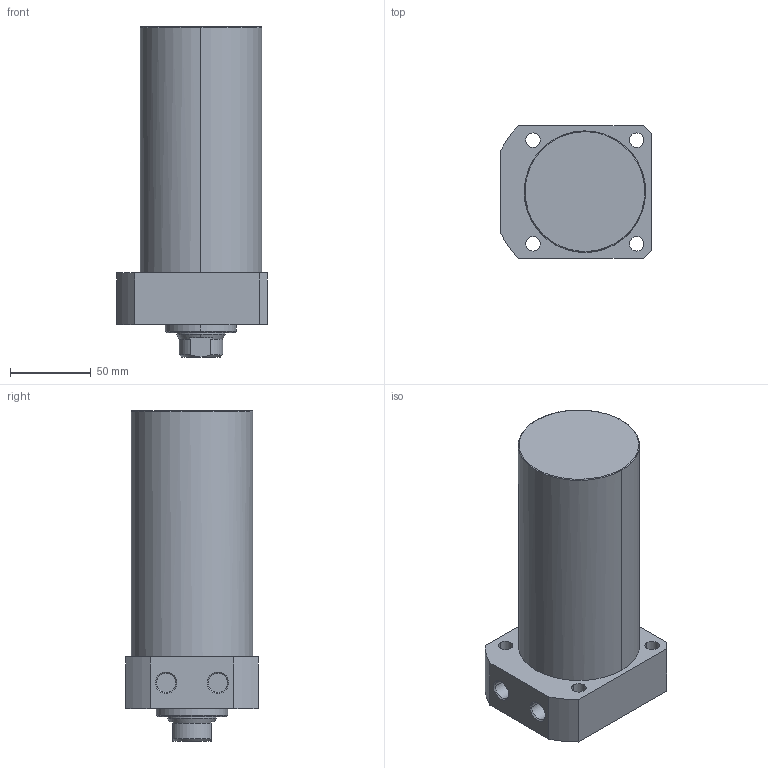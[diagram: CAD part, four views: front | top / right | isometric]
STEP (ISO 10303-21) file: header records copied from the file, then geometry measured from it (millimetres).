
FILE_DESCRIPTION((' '),'2;1');
FILE_NAME( 'TLLR-075CA-115.STEP.stp', '2025-10-24T16:35:06', (' '), ('--- Datakit www.datakit.com---'), ' Datakit CrossCadWare V2024.1 Dec 21 2023', 'Mastercam 2025', ' ');
FILE_SCHEMA(('AUTOMOTIVE_DESIGN { 1 0 10303 214 1 1 1 1 }'));
Length unit declared in the file: millimetre
Products named in the file (1): TLLR-075CA-115
Bounding box: 93 x 82 x 204 mm (x, y, z)
Volume: 906615.7 mm3; surface area: 69475.4 mm2
Topology: 1 solids, 1 shells, 63 faces, 177 edges, 122 vertices
Faces by surface type: cylinder 28, plane 19, cone 14, torus 2
Entity records: 2168 total; most frequent: CARTESIAN_POINT 405, DIRECTION 400, ORIENTED_EDGE 350, EDGE_CURVE 175, AXIS2_PLACEMENT_3D 169, VERTEX_POINT 122, CIRCLE 105, EDGE_LOOP 79
